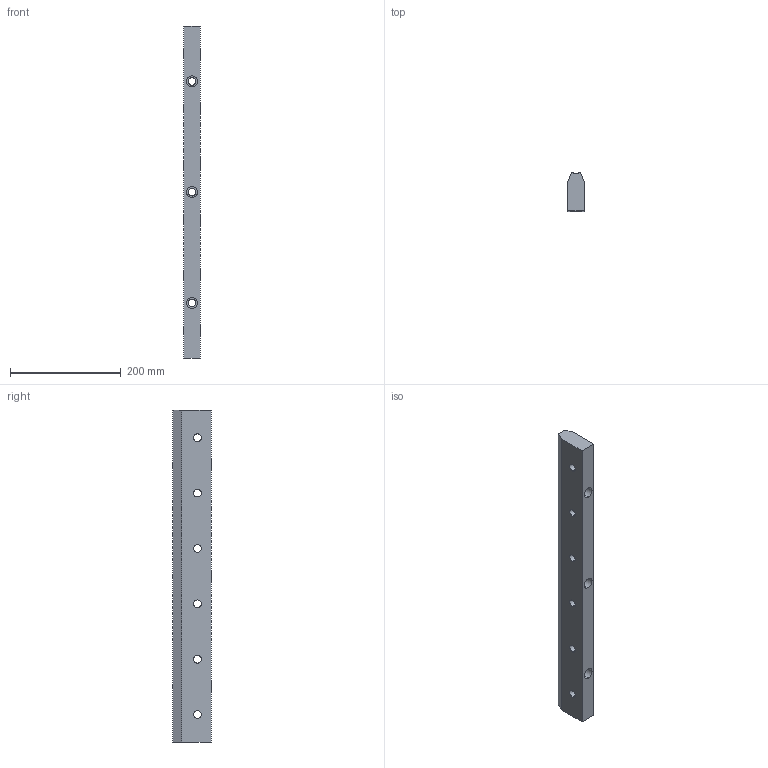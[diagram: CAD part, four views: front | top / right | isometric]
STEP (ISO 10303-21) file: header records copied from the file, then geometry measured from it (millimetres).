
FILE_DESCRIPTION (( 'STEP AP203' ), '1' );
FILE_NAME ('FKWU54-240.step', '2020-03-23T07:53:06', ( '' ), ( '' ), 'SwSTEP 2.0', 'SolidWorks 2019', '' );
FILE_SCHEMA (( 'CONFIG_CONTROL_DESIGN' ));
Length unit declared in the file: millimetre
Products named in the file (2): FKWU54-240
Bounding box: 30 x 69.39 x 599.5 mm (x, y, z)
Volume: 1081495.1 mm3; surface area: 133535.3 mm2
Topology: 1 solids, 1 shells, 54 faces, 132 edges, 86 vertices
Faces by surface type: cylinder 36, plane 18
Entity records: 1805 total; most frequent: DIRECTION 304, CARTESIAN_POINT 292, ORIENTED_EDGE 264, EDGE_CURVE 132, AXIS2_PLACEMENT_3D 122, VERTEX_POINT 86, EDGE_LOOP 78, CIRCLE 66
